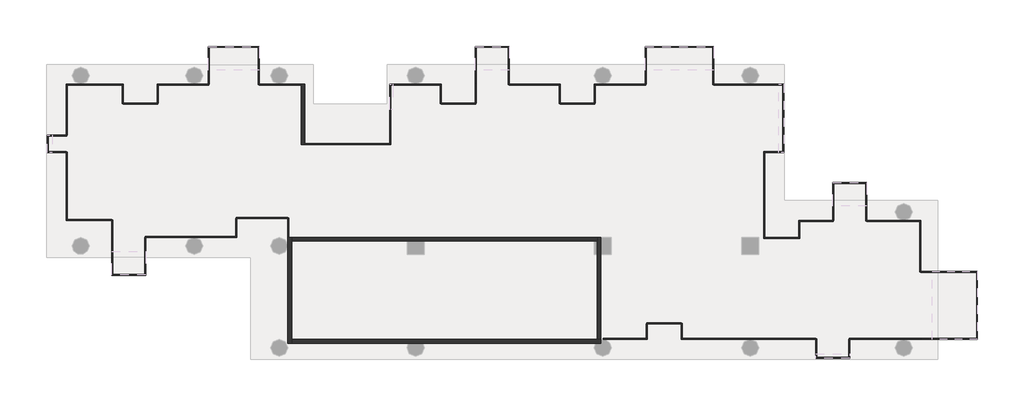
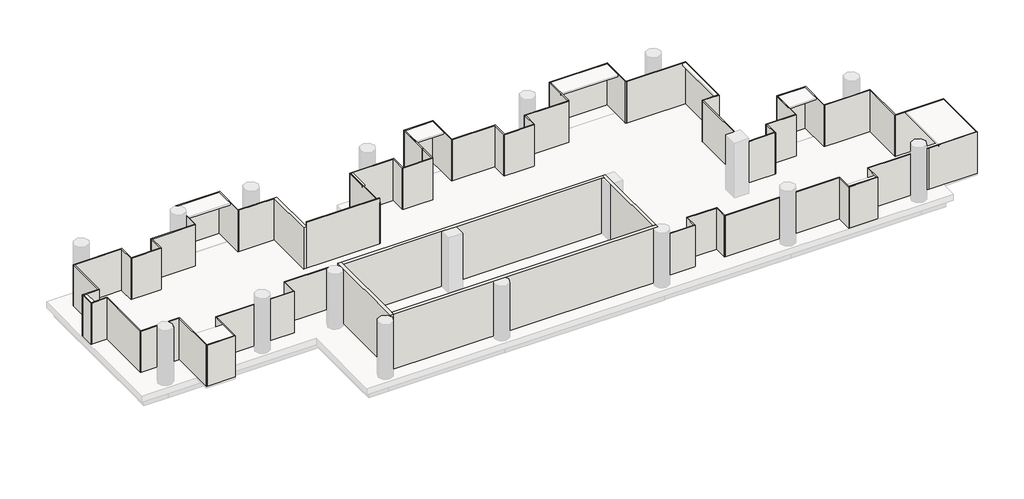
# One storey, part 1 of 2: 68 walls.
"""IFC4 building model written with IfcOpenShell, lengths in millimetres."""

from ifc_helpers import new_model, si_unit, frame, origin, place, context, project, spatial, polyline, outline, extrude, faceted_brep, element, save

model = new_model("IFC4")

# Units and contexts
model_context = context("Model", 3, world=origin())
ifc_project = project(units=[si_unit("LENGTHUNIT", "METRE", prefix="MILLI")], contexts=[model_context])

# Site, building, storey
site = spatial("IfcSite", under=ifc_project)
building = spatial("IfcBuilding", under=site)
storey = spatial("IfcBuildingStorey", under=building, Name="TW-L 10", Elevation=35199.9999686)

# Walls
placement = place(None, origin())
element("IfcWall", 1, ObjectType="AJN-ARC-CONCRETE WALL-20cm", at=placement, inside=storey, context=model_context, shape_type="Brep", body=[
    faceted_brep([(113050.0, 30750.0, 38799.9999686), (113050.0, 30750.0, 35199.9999686), (113050.0, 25150.0, 35199.9999686), (113050.0, 25150.0, 38799.9999686), (113250.0, 30750.0, 35199.9999686), (113250.0, 30750.0, 38799.9999686), (113250.0, 30550.0, 38799.9999686), (113250.0, 25350.0, 38799.9999686), (113250.0, 25150.0, 38799.9999686), (113250.0, 25150.0, 35199.9999686), (113250.0, 25350.0, 35199.9999686), (113250.0, 30550.0, 35199.9999686), (113097.1743518, 30750.0, 35199.9999686)], [[[0, 1, 2, 3]], [[4, 5, 6, 7, 8, 9, 10, 11]], [[2, 1, 12, 4, 11, 10, 9]], [[0, 3, 8, 7, 6, 5]], [[3, 2, 9, 8]], [[0, 5, 4, 12, 1]]]),
])
element("IfcWall", 2, ObjectType="AJN-ARC-CONCRETE WALL-20cm", at=placement, inside=storey, context=model_context, shape_type="Brep", body=[
    faceted_brep([(113250.0, 25150.0, 35199.9999686), (119425.8342613, 25150.0, 35199.9999686), (120174.1657387, 25150.0, 35199.9999686), (129325.8342613, 25150.0, 35199.9999686), (129600.0, 25150.0, 35199.9999686), (129600.0, 25150.0, 38799.9999686), (129325.8342613, 25150.0, 38799.9999686), (120174.1657387, 25150.0, 38799.9999686), (119425.8342613, 25150.0, 38799.9999686), (113250.0, 25150.0, 38799.9999686), (113250.0, 25350.0, 35199.9999686), (113250.0, 25350.0, 38799.9999686), (129400.0, 25350.0, 38799.9999686), (129600.0, 25350.0, 38799.9999686), (129600.0, 25350.0, 35199.9999686), (129400.0, 25350.0, 35199.9999686), (129600.0, 25338.7482194, 35199.9999686), (129600.0, 25338.7482194, 38799.9999686)], [[[0, 1, 2, 3, 4, 5, 6, 7, 8, 9]], [[10, 11, 12, 13, 14, 15]], [[4, 3, 2, 1, 0, 10, 15, 14, 16]], [[9, 8, 7, 6, 5, 17, 13, 12, 11]], [[5, 4, 16, 14, 13, 17]], [[0, 9, 11, 10]]]),
])
element("IfcWall", 3, ObjectType="AJN-ARC-CONCRETE WALL-20cm", at=placement, inside=storey, context=model_context, shape_type="Brep", body=[
    faceted_brep([(129600.0, 25350.0, 35199.9999686), (129600.0, 29850.0, 35199.9999686), (129600.0, 30750.0, 35199.9999686), (129600.0, 30750.0, 38799.9999686), (129600.0, 29850.0, 38799.9999686), (129600.0, 25350.0, 38799.9999686), (129400.0, 25350.0, 35199.9999686), (129400.0, 25350.0, 38799.9999686), (129400.0, 29850.0, 38799.9999686), (129400.0, 30550.0, 38799.9999686), (129400.0, 30750.0, 38799.9999686), (129400.0, 30750.0, 35199.9999686), (129400.0, 30550.0, 35199.9999686), (129400.0, 29850.0, 35199.9999686)], [[[0, 1, 2, 3, 4, 5]], [[6, 7, 8, 9, 10, 11, 12, 13]], [[2, 1, 0, 6, 13, 12, 11]], [[5, 4, 3, 10, 9, 8, 7]], [[3, 2, 11, 10]], [[0, 5, 7, 6]]]),
])
element("IfcWall", 4, ObjectType="AJN-ARC-CONCRETE WALL-20cm", at=placement, inside=storey, context=model_context, shape_type="Brep", body=[
    faceted_brep([(129400.0, 30750.0, 35199.9999686), (113250.0, 30750.0, 35199.9999686), (113250.0, 30750.0, 38799.9999686), (129400.0, 30750.0, 38799.9999686), (129400.0, 30550.0, 35199.9999686), (129400.0, 30550.0, 38799.9999686), (129250.0, 30550.0, 38799.9999686), (120250.0, 30550.0, 38799.9999686), (119350.0, 30550.0, 38799.9999686), (113250.0, 30550.0, 38799.9999686), (113250.0, 30550.0, 35199.9999686), (119350.0, 30550.0, 35199.9999686), (120250.0, 30550.0, 35199.9999686), (129250.0, 30550.0, 35199.9999686)], [[[0, 1, 2, 3]], [[4, 5, 6, 7, 8, 9, 10, 11, 12, 13]], [[1, 0, 4, 13, 12, 11, 10]], [[3, 2, 9, 8, 7, 6, 5]], [[0, 3, 5, 4]], [[1, 10, 9, 2]]]),
])
element("IfcWall", 5, ObjectType="AJN-ARC-CONCRETE WALL-20cm", at=placement, inside=storey, context=model_context, shape_type="Brep", body=[
    faceted_brep([(113950.0, 35650.0, 35199.9999686), (113950.0, 38850.001152, 35199.9999686), (113950.0, 38850.001152, 37899.9999686), (113950.0, 35650.0, 37899.9999686), (113750.0, 35650.0, 35199.9999686), (113750.0, 35650.0, 37899.9999686), (113750.0, 38800.001056, 37899.9999686), (113750.0, 38850.001056, 37899.9999686), (113750.0, 38850.001056, 35199.9999686), (113750.0, 38800.001056, 35199.9999686)], [[[0, 1, 2, 3]], [[4, 5, 6, 7, 8, 9]], [[1, 0, 4, 9, 8]], [[3, 2, 7, 6, 5]], [[0, 3, 5, 4]], [[2, 1, 8, 7]]]),
])
element("IfcWall", 6, ObjectType="AJN-ARC-GLASS-50mm", at=placement, inside=storey, context=model_context, shape_type="SweptSolid", body=[
    extrude(outline(polyline([(111550.0, 38850.0), (113750.0, 38850.001056), (113750.0, 38800.001056), (111550.000024, 38800.0), (111550.0, 38850.0)])), frame((0.0, 0.0, 35199.9999686), z_axis=(0.0, 0.0, 1.0), x_axis=(1.0, 0.0, 0.0)), (0.0, 0.0, 1.0), 2700.0),
])
element("IfcWall", 7, ObjectType="AJN-ARC-GLASS-50mm", at=placement, inside=storey, context=model_context, shape_type="Brep", body=[
    faceted_brep([(111550.0, 38824.999988, 35199.9999686), (111550.0, 40850.0, 35199.9999686), (111550.0, 40850.0, 37899.9999686), (111550.0, 38824.999988, 37899.9999686), (111500.0, 38824.999988, 35199.9999686), (111500.0, 38824.999988, 37899.9999686), (111500.0, 40800.0, 37899.9999686), (111500.0, 40850.0, 37899.9999686), (111500.0, 40850.0, 35199.9999686), (111500.0, 40800.0, 35199.9999686)], [[[0, 1, 2, 3]], [[4, 5, 6, 7, 8, 9]], [[1, 0, 4, 9, 8]], [[3, 2, 7, 6, 5]], [[0, 3, 5, 4]], [[2, 1, 8, 7]]]),
])
element("IfcWall", 8, ObjectType="AJN-ARC-GLASS-50mm", at=placement, inside=storey, context=model_context, shape_type="Brep", body=[
    faceted_brep([(111500.0, 40850.0, 35199.9999686), (108850.0, 40850.0, 35199.9999686), (108850.0, 40850.0, 37899.9999686), (111500.0, 40850.0, 37899.9999686), (111500.0, 40800.0, 35199.9999686), (111500.0, 40800.0, 37899.9999686), (108900.0, 40800.0, 37899.9999686), (108850.0, 40800.0, 37899.9999686), (108850.0, 40800.0, 35199.9999686), (108900.0, 40800.0, 35199.9999686)], [[[0, 1, 2, 3]], [[4, 5, 6, 7, 8, 9]], [[1, 0, 4, 9, 8]], [[3, 2, 7, 6, 5]], [[2, 1, 8, 7]], [[0, 3, 5, 4]]]),
])
element("IfcWall", 9, ObjectType="AJN-ARC-GLASS-50mm", at=placement, inside=storey, context=model_context, shape_type="SweptSolid", body=[
    extrude(outline(polyline([(108850.0, 38850.0), (108850.0, 40800.0), (108900.0, 40800.0), (108900.0, 38850.0), (108850.0, 38850.0)])), frame((0.0, 0.0, 35199.9999686), z_axis=(0.0, 0.0, 1.0), x_axis=(1.0, 0.0, 0.0)), (0.0, 0.0, 1.0), 2700.0),
])
element("IfcWall", 10, ObjectType="AJN-ARC-GLASS-50mm", at=placement, inside=storey, context=model_context, shape_type="Brep", body=[
    faceted_brep([(108875.0000019, 38849.9999981, 35199.9999686), (106150.0, 38850.0002073, 35199.9999686), (106150.0, 38850.0002073, 37899.9999686), (108875.0000019, 38849.9999981, 37899.9999686), (108874.9999981, 38799.9999981, 35199.9999686), (108874.9999981, 38799.9999981, 37899.9999686), (106200.0, 38800.0002034, 37899.9999686), (106150.0, 38800.0002073, 37899.9999686), (106150.0, 38800.0002073, 35199.9999686), (106200.0, 38800.0002034, 35199.9999686)], [[[0, 1, 2, 3]], [[4, 5, 6, 7, 8, 9]], [[1, 0, 4, 9, 8]], [[3, 2, 7, 6, 5]], [[0, 3, 5, 4]], [[2, 1, 8, 7]]]),
])
element("IfcWall", 11, ObjectType="AJN-ARC-GLASS-50mm", at=placement, inside=storey, context=model_context, shape_type="SweptSolid", body=[
    extrude(outline(polyline([(106150.0, 37850.0), (106150.0, 38800.0002073), (106200.0, 38800.0002034), (106200.0, 37850.0), (106150.0, 37850.0)])), frame((0.0, 0.0, 35199.9999686), z_axis=(0.0, 0.0, 1.0), x_axis=(1.0, 0.0, 0.0)), (0.0, 0.0, 1.0), 2700.0),
])
element("IfcWall", 12, ObjectType="AJN-ARC-GLASS-50mm", at=placement, inside=storey, context=model_context, shape_type="SweptSolid", body=[
    extrude(outline(polyline([(104350.0, 37850.0), (106175.0, 37850.0), (106175.0, 37800.0), (104350.0, 37800.0), (104350.0, 37850.0)])), frame((0.0, 0.0, 35199.9999686), z_axis=(0.0, 0.0, 1.0), x_axis=(1.0, 0.0, 0.0)), (0.0, 0.0, 1.0), 2700.0),
])
element("IfcWall", 13, ObjectType="AJN-ARC-GLASS-50mm", at=placement, inside=storey, context=model_context, shape_type="Brep", body=[
    faceted_brep([(104350.0, 37825.0, 35199.9999686), (104350.0, 38850.0003455, 35199.9999686), (104350.0, 38850.0003455, 37899.9999686), (104350.0, 37825.0, 37899.9999686), (104300.0, 37825.0, 35199.9999686), (104300.0, 37825.0, 37899.9999686), (104300.0, 38800.0003589, 37899.9999686), (104300.0, 38850.0003589, 37899.9999686), (104300.0, 38850.0003589, 35199.9999686), (104300.0, 38800.0003589, 35199.9999686)], [[[0, 1, 2, 3]], [[4, 5, 6, 7, 8, 9]], [[1, 0, 4, 9, 8]], [[3, 2, 7, 6, 5]], [[0, 3, 5, 4]], [[2, 1, 8, 7]]]),
])
element("IfcWall", 14, ObjectType="AJN-ARC-GLASS-50mm", at=placement, inside=storey, context=model_context, shape_type="Brep", body=[
    faceted_brep([(104300.0, 38850.0003589, 35199.9999686), (101347.1743518, 38850.001152, 35199.9999686), (101347.1743518, 38850.001152, 37899.9999686), (104300.0, 38850.0003589, 37899.9999686), (104300.0, 38800.0003589, 35199.9999686), (104300.0, 38800.0003589, 37899.9999686), (101397.1743518, 38800.0011385, 37899.9999686), (101347.1743518, 38800.001152, 37899.9999686), (101347.1743518, 38800.001152, 35199.9999686), (101397.1743518, 38800.0011385, 35199.9999686)], [[[0, 1, 2, 3]], [[4, 5, 6, 7, 8, 9]], [[1, 0, 4, 9, 8]], [[3, 2, 7, 6, 5]], [[2, 1, 8, 7]], [[0, 3, 5, 4]]]),
])
element("IfcWall", 15, ObjectType="AJN-ARC-GLASS-50mm", at=placement, inside=storey, context=model_context, shape_type="SweptSolid", body=[
    extrude(outline(polyline([(101347.1743518, 36149.4054443), (101347.1743518, 38800.001152), (101397.1743518, 38800.0011385), (101397.1743518, 36149.4054443), (101347.1743518, 36149.4054443)])), frame((0.0, 0.0, 35199.9999686), z_axis=(0.0, 0.0, 1.0), x_axis=(1.0, 0.0, 0.0)), (0.0, 0.0, 1.0), 2700.0),
])
element("IfcWall", 16, ObjectType="AJN-ARC-GLASS-50mm", at=placement, inside=storey, context=model_context, shape_type="Brep", body=[
    faceted_brep([(101372.1743518, 36149.4054443, 35199.9999686), (100347.1743518, 36149.4054443, 35199.9999686), (100347.1743518, 36149.4054443, 37899.9999686), (101372.1743518, 36149.4054443, 37899.9999686), (101372.1743518, 36099.4054443, 35199.9999686), (101372.1743518, 36099.4054443, 37899.9999686), (100397.1743518, 36099.4054443, 37899.9999686), (100347.1743518, 36099.4054443, 37899.9999686), (100347.1743518, 36099.4054443, 35199.9999686), (100397.1743518, 36099.4054443, 35199.9999686)], [[[0, 1, 2, 3]], [[4, 5, 6, 7, 8, 9]], [[1, 0, 4, 9, 8]], [[3, 2, 7, 6, 5]], [[0, 3, 5, 4]], [[2, 1, 8, 7]]]),
])
element("IfcWall", 17, ObjectType="AJN-ARC-GLASS-50mm", at=placement, inside=storey, context=model_context, shape_type="Brep", body=[
    faceted_brep([(100347.1743518, 36099.4054443, 35199.9999686), (100347.1743518, 35249.4054443, 35199.9999686), (100347.1743518, 35249.4054443, 37899.9999686), (100347.1743518, 36099.4054443, 37899.9999686), (100397.1743518, 36099.4054443, 35199.9999686), (100397.1743518, 36099.4054443, 37899.9999686), (100397.1743518, 35299.4054443, 37899.9999686), (100397.1743518, 35249.4054443, 37899.9999686), (100397.1743518, 35249.4054443, 35199.9999686), (100397.1743518, 35299.4054443, 35199.9999686)], [[[0, 1, 2, 3]], [[4, 5, 6, 7, 8, 9]], [[1, 0, 4, 9, 8]], [[3, 2, 7, 6, 5]], [[2, 1, 8, 7]], [[0, 3, 5, 4]]]),
])
element("IfcWall", 18, ObjectType="AJN-ARC-GLASS-50mm", at=placement, inside=storey, context=model_context, shape_type="SweptSolid", body=[
    extrude(outline(polyline([(101347.1743518, 35249.4054443), (100397.1743518, 35249.4054443), (100397.1743518, 35299.4054443), (101347.1743518, 35299.4054443), (101347.1743518, 35249.4054443)])), frame((0.0, 0.0, 35199.9999686), z_axis=(0.0, 0.0, 1.0), x_axis=(1.0, 0.0, 0.0)), (0.0, 0.0, 1.0), 2700.0),
])
element("IfcWall", 19, ObjectType="AJN-ARC-GLASS-50mm", at=placement, inside=storey, context=model_context, shape_type="Brep", body=[
    faceted_brep([(101347.1743518, 35274.4054443, 35199.9999686), (101347.1743518, 31650.9122458, 35199.9999686), (101347.1743518, 31650.9122458, 37899.9999686), (101347.1743518, 35274.4054443, 37899.9999686), (101397.1743518, 35274.4054443, 35199.9999686), (101397.1743518, 35274.4054443, 37899.9999686), (101397.1743518, 31700.9122458, 37899.9999686), (101397.1743518, 31650.9122458, 37899.9999686), (101397.1743518, 31650.9122458, 35199.9999686), (101397.1743518, 31700.9122458, 35199.9999686)], [[[0, 1, 2, 3]], [[4, 5, 6, 7, 8, 9]], [[1, 0, 4, 9, 8]], [[3, 2, 7, 6, 5]], [[0, 3, 5, 4]], [[2, 1, 8, 7]]]),
])
element("IfcWall", 20, ObjectType="AJN-ARC-GLASS-50mm", at=placement, inside=storey, context=model_context, shape_type="SweptSolid", body=[
    extrude(outline(polyline([(103747.1743518, 31650.9122458), (101397.1743518, 31650.9122458), (101397.1743518, 31700.9122458), (103747.1743518, 31700.9122458), (103747.1743518, 31650.9122458)])), frame((0.0, 0.0, 35199.9999686), z_axis=(0.0, 0.0, 1.0), x_axis=(1.0, 0.0, 0.0)), (0.0, 0.0, 1.0), 2700.0),
])
element("IfcWall", 21, ObjectType="AJN-ARC-GLASS-50mm", at=placement, inside=storey, context=model_context, shape_type="Brep", body=[
    faceted_brep([(103747.1743518, 31675.9122458, 35199.9999686), (103747.1743518, 28750.0, 35199.9999686), (103747.1743518, 28750.0, 37899.9999686), (103747.1743518, 31675.9122458, 37899.9999686), (103797.1743518, 31675.9122458, 35199.9999686), (103797.1743518, 31675.9122458, 37899.9999686), (103797.1743518, 28800.0, 37899.9999686), (103797.1743518, 28750.0, 37899.9999686), (103797.1743518, 28750.0, 35199.9999686), (103797.1743518, 28800.0, 35199.9999686)], [[[0, 1, 2, 3]], [[4, 5, 6, 7, 8, 9]], [[1, 0, 4, 9, 8]], [[3, 2, 7, 6, 5]], [[0, 3, 5, 4]], [[2, 1, 8, 7]]]),
])
element("IfcWall", 22, ObjectType="AJN-ARC-GLASS-50mm", at=placement, inside=storey, context=model_context, shape_type="Brep", body=[
    faceted_brep([(103797.1743518, 28750.0, 35199.9999686), (105547.1743518, 28750.0, 35199.9999686), (105547.1743518, 28750.0, 37899.9999686), (103797.1743518, 28750.0, 37899.9999686), (103797.1743518, 28800.0, 35199.9999686), (103797.1743518, 28800.0, 37899.9999686), (105497.1743518, 28800.0, 37899.9999686), (105547.1743518, 28800.0, 37899.9999686), (105547.1743518, 28800.0, 35199.9999686), (105497.1743518, 28800.0, 35199.9999686)], [[[0, 1, 2, 3]], [[4, 5, 6, 7, 8, 9]], [[1, 0, 4, 9, 8]], [[3, 2, 7, 6, 5]], [[2, 1, 8, 7]], [[0, 3, 5, 4]]]),
])
element("IfcWall", 23, ObjectType="AJN-ARC-GLASS-50mm", at=placement, inside=storey, context=model_context, shape_type="SweptSolid", body=[
    extrude(outline(polyline([(105547.1743518, 30750.0), (105547.1743518, 28800.0), (105497.1743518, 28800.0), (105497.1743518, 30750.0), (105547.1743518, 30750.0)])), frame((0.0, 0.0, 35199.9999686), z_axis=(0.0, 0.0, 1.0), x_axis=(1.0, 0.0, 0.0)), (0.0, 0.0, 1.0), 2700.0),
])
element("IfcWall", 24, ObjectType="AJN-ARC-GLASS-50mm", at=placement, inside=storey, context=model_context, shape_type="Brep", body=[
    faceted_brep([(105522.1743518, 30750.0, 35199.9999686), (110347.1743518, 30750.0, 35199.9999686), (110347.1743518, 30750.0, 37899.9999686), (105522.1743518, 30750.0, 37899.9999686), (105522.1743518, 30800.0, 35199.9999686), (105522.1743518, 30800.0, 37899.9999686), (110297.1743518, 30800.0, 37899.9999686), (110347.1743518, 30800.0, 37899.9999686), (110347.1743518, 30800.0, 35199.9999686), (110297.1743518, 30800.0, 35199.9999686)], [[[0, 1, 2, 3]], [[4, 5, 6, 7, 8, 9]], [[1, 0, 4, 9, 8]], [[3, 2, 7, 6, 5]], [[0, 3, 5, 4]], [[2, 1, 8, 7]]]),
])
element("IfcWall", 25, ObjectType="AJN-ARC-GLASS-50mm", at=placement, inside=storey, context=model_context, shape_type="SweptSolid", body=[
    extrude(outline(polyline([(110347.1743518, 31750.0), (110347.1743518, 30800.0), (110297.1743518, 30800.0), (110297.1743518, 31750.0), (110347.1743518, 31750.0)])), frame((0.0, 0.0, 35199.9999686), z_axis=(0.0, 0.0, 1.0), x_axis=(1.0, 0.0, 0.0)), (0.0, 0.0, 1.0), 2700.0),
])
element("IfcWall", 26, ObjectType="AJN-ARC-GLASS-50mm", at=placement, inside=storey, context=model_context, shape_type="SweptSolid", body=[
    extrude(outline(polyline([(113047.1743518, 31750.0), (110322.1743518, 31750.0), (110322.1743518, 31800.0), (113047.1743518, 31800.0), (113047.1743518, 31750.0)])), frame((0.0, 0.0, 35199.9999686), z_axis=(0.0, 0.0, 1.0), x_axis=(1.0, 0.0, 0.0)), (0.0, 0.0, 1.0), 2700.0),
])
element("IfcWall", 27, ObjectType="AJN-ARC-GLASS-50mm", at=placement, inside=storey, context=model_context, shape_type="Brep", body=[
    faceted_brep([(113047.1743518, 31775.0, 35199.9999686), (113047.1743518, 30750.0, 35199.9999686), (113047.1743518, 30750.0, 37899.9999686), (113047.1743518, 31775.0, 37899.9999686), (113097.1743518, 31775.0, 35199.9999686), (113097.1743518, 31775.0, 37899.9999686), (113097.1743518, 30750.0, 37899.9999686), (113097.1743518, 30750.0, 35199.9999686), (113050.0, 30750.0, 35199.9999686)], [[[0, 1, 2, 3]], [[4, 5, 6, 7]], [[1, 0, 4, 7, 8]], [[3, 2, 6, 5]], [[0, 3, 5, 4]], [[2, 1, 8, 7, 6]]]),
])
element("IfcWall", 28, ObjectType="AJN-ARC-GLASS-50mm", at=placement, inside=storey, context=model_context, shape_type="Brep", body=[
    faceted_brep([(138250.0, 30700.0, 35199.9999686), (138250.0, 30750.0, 35199.9999686), (138250.0, 35250.0, 35199.9999686), (138250.0, 35250.0, 37899.9999686), (138250.0, 30750.0, 37899.9999686), (138250.0, 30700.0, 37899.9999686), (138200.0, 30700.0, 35199.9999686), (138200.0, 30700.0, 37899.9999686), (138200.0, 35250.0, 37899.9999686), (138200.0, 35250.0, 35199.9999686)], [[[0, 1, 2, 3, 4, 5]], [[6, 7, 8, 9]], [[2, 1, 0, 6, 9]], [[5, 4, 3, 8, 7]], [[0, 5, 7, 6]], [[3, 2, 9, 8]]]),
])
element("IfcWall", 29, ObjectType="AJN-ARC-GLASS-50mm", at=placement, inside=storey, context=model_context, shape_type="Brep", body=[
    faceted_brep([(138200.0, 35250.0, 35199.9999686), (138250.0, 35250.0, 35199.9999686), (139250.0, 35250.0, 35199.9999686), (139250.0, 35250.0, 37899.9999686), (138250.0, 35250.0, 37899.9999686), (138200.0, 35250.0, 37899.9999686), (138200.0, 35300.0, 35199.9999686), (138200.0, 35300.0, 37899.9999686), (139200.0, 35300.0, 37899.9999686), (139250.0, 35300.0, 37899.9999686), (139250.0, 35300.0, 35199.9999686), (139200.0, 35300.0, 35199.9999686)], [[[0, 1, 2, 3, 4, 5]], [[6, 7, 8, 9, 10, 11]], [[2, 1, 0, 6, 11, 10]], [[5, 4, 3, 9, 8, 7]], [[3, 2, 10, 9]], [[0, 5, 7, 6]]]),
])
element("IfcWall", 30, ObjectType="AJN-ARC-GLASS-50mm", at=placement, inside=storey, context=model_context, shape_type="Brep", body=[
    faceted_brep([(139250.0, 35300.0, 35199.9999686), (139250.0, 38850.0, 35199.9999686), (139250.0, 38850.0, 37899.9999686), (139250.0, 35300.0, 37899.9999686), (139200.0, 35300.0, 35199.9999686), (139200.0, 35300.0, 37899.9999686), (139200.0, 38800.0, 37899.9999686), (139200.0, 38850.0, 37899.9999686), (139200.0, 38850.0, 35199.9999686), (139200.0, 38800.0, 35199.9999686)], [[[0, 1, 2, 3]], [[4, 5, 6, 7, 8, 9]], [[1, 0, 4, 9, 8]], [[3, 2, 7, 6, 5]], [[2, 1, 8, 7]], [[0, 3, 5, 4]]]),
])
element("IfcWall", 31, ObjectType="AJN-ARC-GLASS-50mm", at=placement, inside=storey, context=model_context, shape_type="SweptSolid", body=[
    extrude(outline(polyline([(135550.0, 38850.0), (139200.0, 38850.0), (139200.0, 38800.0), (135550.0, 38800.0), (135550.0, 38850.0)])), frame((0.0, 0.0, 35199.9999686), z_axis=(0.0, 0.0, 1.0), x_axis=(1.0, 0.0, 0.0)), (0.0, 0.0, 1.0), 2700.0),
])
element("IfcWall", 32, ObjectType="AJN-ARC-GLASS-50mm", at=placement, inside=storey, context=model_context, shape_type="Brep", body=[
    faceted_brep([(135550.0, 38825.0, 35199.9999686), (135550.0, 40850.0, 35199.9999686), (135550.0, 40850.0, 37899.9999686), (135550.0, 38825.0, 37899.9999686), (135500.0, 38825.0, 35199.9999686), (135500.0, 38825.0, 37899.9999686), (135500.0, 40800.0, 37899.9999686), (135500.0, 40850.0, 37899.9999686), (135500.0, 40850.0, 35199.9999686), (135500.0, 40800.0, 35199.9999686)], [[[0, 1, 2, 3]], [[4, 5, 6, 7, 8, 9]], [[1, 0, 4, 9, 8]], [[3, 2, 7, 6, 5]], [[0, 3, 5, 4]], [[2, 1, 8, 7]]]),
])
element("IfcWall", 33, ObjectType="AJN-ARC-GLASS-50mm", at=placement, inside=storey, context=model_context, shape_type="Brep", body=[
    faceted_brep([(135500.0, 40850.0, 35199.9999686), (131950.0, 40850.0, 35199.9999686), (131950.0, 40850.0, 37899.9999686), (135500.0, 40850.0, 37899.9999686), (135500.0, 40800.0, 35199.9999686), (135500.0, 40800.0, 37899.9999686), (132000.0, 40800.0, 37899.9999686), (131950.0, 40800.0, 37899.9999686), (131950.0, 40800.0, 35199.9999686), (132000.0, 40800.0, 35199.9999686)], [[[0, 1, 2, 3]], [[4, 5, 6, 7, 8, 9]], [[1, 0, 4, 9, 8]], [[3, 2, 7, 6, 5]], [[2, 1, 8, 7]], [[0, 3, 5, 4]]]),
])
element("IfcWall", 34, ObjectType="AJN-ARC-GLASS-50mm", at=placement, inside=storey, context=model_context, shape_type="SweptSolid", body=[
    extrude(outline(polyline([(131950.0, 38850.0), (131950.0, 40800.0), (132000.0, 40800.0), (132000.0, 38850.0), (131950.0, 38850.0)])), frame((0.0, 0.0, 35199.9999686), z_axis=(0.0, 0.0, 1.0), x_axis=(1.0, 0.0, 0.0)), (0.0, 0.0, 1.0), 2700.0),
])
element("IfcWall", 35, ObjectType="AJN-ARC-GLASS-50mm", at=placement, inside=storey, context=model_context, shape_type="Brep", body=[
    faceted_brep([(131975.0, 38850.0, 35199.9999686), (129250.0, 38850.0, 35199.9999686), (129250.0, 38850.0, 37899.9999686), (131975.0, 38850.0, 37899.9999686), (131975.0, 38800.0, 35199.9999686), (131975.0, 38800.0, 37899.9999686), (129300.0, 38800.0, 37899.9999686), (129250.0, 38800.0, 37899.9999686), (129250.0, 38800.0, 35199.9999686), (129300.0, 38800.0, 35199.9999686)], [[[0, 1, 2, 3]], [[4, 5, 6, 7, 8, 9]], [[1, 0, 4, 9, 8]], [[3, 2, 7, 6, 5]], [[0, 3, 5, 4]], [[2, 1, 8, 7]]]),
])
element("IfcWall", 36, ObjectType="AJN-ARC-GLASS-50mm", at=placement, inside=storey, context=model_context, shape_type="SweptSolid", body=[
    extrude(outline(polyline([(129250.0, 37850.0), (129250.0, 38800.0), (129300.0, 38800.0), (129300.0, 37850.0), (129250.0, 37850.0)])), frame((0.0, 0.0, 35199.9999686), z_axis=(0.0, 0.0, 1.0), x_axis=(1.0, 0.0, 0.0)), (0.0, 0.0, 1.0), 2700.0),
])
element("IfcWall", 37, ObjectType="AJN-ARC-GLASS-50mm", at=placement, inside=storey, context=model_context, shape_type="SweptSolid", body=[
    extrude(outline(polyline([(127450.0, 37850.0), (129275.0, 37850.0), (129275.0, 37800.0), (127450.0, 37800.0), (127450.0, 37850.0)])), frame((0.0, 0.0, 35199.9999686), z_axis=(0.0, 0.0, 1.0), x_axis=(1.0, 0.0, 0.0)), (0.0, 0.0, 1.0), 2700.0),
])
element("IfcWall", 38, ObjectType="AJN-ARC-GLASS-50mm", at=placement, inside=storey, context=model_context, shape_type="Brep", body=[
    faceted_brep([(127450.0, 37825.0, 35199.9999686), (127450.0, 38850.0, 35199.9999686), (127450.0, 38850.0, 37899.9999686), (127450.0, 37825.0, 37899.9999686), (127400.0, 37825.0, 35199.9999686), (127400.0, 37825.0, 37899.9999686), (127400.0, 38800.0, 37899.9999686), (127400.0, 38850.0, 37899.9999686), (127400.0, 38850.0, 35199.9999686), (127400.0, 38800.0, 35199.9999686)], [[[0, 1, 2, 3]], [[4, 5, 6, 7, 8, 9]], [[1, 0, 4, 9, 8]], [[3, 2, 7, 6, 5]], [[0, 3, 5, 4]], [[2, 1, 8, 7]]]),
])
element("IfcWall", 39, ObjectType="AJN-ARC-GLASS-50mm", at=placement, inside=storey, context=model_context, shape_type="SweptSolid", body=[
    extrude(outline(polyline([(124761.0540705, 38850.0), (127400.0, 38850.0), (127400.0, 38800.0), (124761.0540705, 38800.0), (124761.0540705, 38850.0)])), frame((0.0, 0.0, 35199.9999686), z_axis=(0.0, 0.0, 1.0), x_axis=(1.0, 0.0, 0.0)), (0.0, 0.0, 1.0), 2700.0),
])
element("IfcWall", 40, ObjectType="AJN-ARC-GLASS-50mm", at=placement, inside=storey, context=model_context, shape_type="Brep", body=[
    faceted_brep([(124761.0540705, 38825.0, 35199.9999686), (124761.0540705, 40850.0, 35199.9999686), (124761.0540705, 40850.0, 37899.9999686), (124761.0540705, 38825.0, 37899.9999686), (124711.0540705, 38825.0, 35199.9999686), (124711.0540705, 38825.0, 37899.9999686), (124711.0540705, 40800.0, 37899.9999686), (124711.0540705, 40850.0, 37899.9999686), (124711.0540705, 40850.0, 35199.9999686), (124711.0540705, 40800.0, 35199.9999686)], [[[0, 1, 2, 3]], [[4, 5, 6, 7, 8, 9]], [[1, 0, 4, 9, 8]], [[3, 2, 7, 6, 5]], [[0, 3, 5, 4]], [[2, 1, 8, 7]]]),
])
element("IfcWall", 41, ObjectType="AJN-ARC-GLASS-50mm", at=placement, inside=storey, context=model_context, shape_type="Brep", body=[
    faceted_brep([(124711.0540705, 40850.0, 35199.9999686), (122961.0540705, 40850.0, 35199.9999686), (122961.0540705, 40850.0, 37899.9999686), (124711.0540705, 40850.0, 37899.9999686), (124711.0540705, 40800.0, 35199.9999686), (124711.0540705, 40800.0, 37899.9999686), (123011.0540705, 40800.0, 37899.9999686), (122961.0540705, 40800.0, 37899.9999686), (122961.0540705, 40800.0, 35199.9999686), (123011.0540705, 40800.0, 35199.9999686)], [[[0, 1, 2, 3]], [[4, 5, 6, 7, 8, 9]], [[1, 0, 4, 9, 8]], [[3, 2, 7, 6, 5]], [[2, 1, 8, 7]], [[0, 3, 5, 4]]]),
])
element("IfcWall", 42, ObjectType="AJN-ARC-GLASS-50mm", at=placement, inside=storey, context=model_context, shape_type="SweptSolid", body=[
    extrude(outline(polyline([(122961.0540705, 38875.0), (122961.0540705, 40800.0), (123011.0540705, 40800.0), (123011.0540705, 38875.0), (122961.0540705, 38875.0)])), frame((0.0, 0.0, 35199.9999686), z_axis=(0.0, 0.0, 1.0), x_axis=(1.0, 0.0, 0.0)), (0.0, 0.0, 1.0), 2700.0),
])
element("IfcWall", 43, ObjectType="AJN-ARC-GLASS-50mm", at=placement, inside=storey, context=model_context, shape_type="SweptSolid", body=[
    extrude(outline(polyline([(122963.0639015, 37850.0), (122963.0639015, 38875.0), (123013.0639015, 38875.0), (123013.0639015, 37850.0), (122963.0639015, 37850.0)])), frame((0.0, 0.0, 35199.9999686), z_axis=(0.0, 0.0, 1.0), x_axis=(1.0, 0.0, 0.0)), (0.0, 0.0, 1.0), 2700.0),
])
element("IfcWall", 44, ObjectType="AJN-ARC-GLASS-50mm", at=placement, inside=storey, context=model_context, shape_type="SweptSolid", body=[
    extrude(outline(polyline([(121163.0639015, 37850.0), (122988.0639015, 37850.0), (122988.0639015, 37800.0), (121163.0639015, 37800.0), (121163.0639015, 37850.0)])), frame((0.0, 0.0, 35199.9999686), z_axis=(0.0, 0.0, 1.0), x_axis=(1.0, 0.0, 0.0)), (0.0, 0.0, 1.0), 2700.0),
])
element("IfcWall", 45, ObjectType="AJN-ARC-GLASS-50mm", at=placement, inside=storey, context=model_context, shape_type="Brep", body=[
    faceted_brep([(121163.0639015, 37825.0, 35199.9999686), (121163.0639015, 38850.0, 35199.9999686), (121163.0639015, 38850.0, 37899.9999686), (121163.0639015, 37825.0, 37899.9999686), (121113.0639015, 37825.0, 35199.9999686), (121113.0639015, 37825.0, 37899.9999686), (121113.0639015, 38800.0, 37899.9999686), (121113.0639015, 38850.0, 37899.9999686), (121113.0639015, 38850.0, 35199.9999686), (121113.0639015, 38800.0, 35199.9999686)], [[[0, 1, 2, 3]], [[4, 5, 6, 7, 8, 9]], [[1, 0, 4, 9, 8]], [[3, 2, 7, 6, 5]], [[0, 3, 5, 4]], [[2, 1, 8, 7]]]),
])
element("IfcWall", 46, ObjectType="AJN-ARC-GLASS-50mm", at=placement, inside=storey, context=model_context, shape_type="Brep", body=[
    faceted_brep([(121113.0639015, 38850.0, 35199.9999686), (118450.0, 38850.0, 35199.9999686), (118450.0, 38850.0, 37899.9999686), (121113.0639015, 38850.0, 37899.9999686), (121113.0639015, 38800.0, 35199.9999686), (121113.0639015, 38800.0, 37899.9999686), (118500.0, 38800.0, 37899.9999686), (118450.0, 38800.0, 37899.9999686), (118450.0, 38800.0, 35199.9999686), (118500.0, 38800.0, 35199.9999686)], [[[0, 1, 2, 3]], [[4, 5, 6, 7, 8, 9]], [[1, 0, 4, 9, 8]], [[3, 2, 7, 6, 5]], [[0, 3, 5, 4]], [[2, 1, 8, 7]]]),
])
element("IfcWall", 47, ObjectType="AJN-ARC-GLASS-50mm", at=placement, inside=storey, context=model_context, shape_type="Brep", body=[
    faceted_brep([(129714.068817, 25350.0, 35199.9999686), (132036.3087916, 25350.0, 35199.9999686), (132036.3087916, 25350.0, 37899.9999686), (129714.068817, 25350.0, 37899.9999686), (129714.068817, 25400.0, 35199.9999686), (129714.068817, 25400.0, 37899.9999686), (131986.3087916, 25400.0, 37899.9999686), (132036.3087916, 25400.0, 37899.9999686), (132036.3087916, 25400.0, 35199.9999686), (131986.3087916, 25400.0, 35199.9999686)], [[[0, 1, 2, 3]], [[4, 5, 6, 7, 8, 9]], [[1, 0, 4, 9, 8]], [[3, 2, 7, 6, 5]], [[0, 3, 5, 4]], [[2, 1, 8, 7]]]),
])
element("IfcWall", 48, ObjectType="AJN-ARC-GLASS-50mm", at=placement, inside=storey, context=model_context, shape_type="SweptSolid", body=[
    extrude(outline(polyline([(132036.3087916, 26186.5520209), (132036.3087916, 25400.0), (131986.3087916, 25400.0), (131986.3087916, 26186.5520209), (132036.3087916, 26186.5520209)])), frame((0.0, 0.0, 35199.9999686), z_axis=(0.0, 0.0, 1.0), x_axis=(1.0, 0.0, 0.0)), (0.0, 0.0, 1.0), 2700.0),
])
element("IfcWall", 49, ObjectType="AJN-ARC-GLASS-50mm", at=placement, inside=storey, context=model_context, shape_type="SweptSolid", body=[
    extrude(outline(polyline([(133836.3115759, 26186.5520209), (132011.3087916, 26186.5520209), (132011.3087916, 26236.5520209), (133836.3115759, 26236.5520209), (133836.3115759, 26186.5520209)])), frame((0.0, 0.0, 35199.9999686), z_axis=(0.0, 0.0, 1.0), x_axis=(1.0, 0.0, 0.0)), (0.0, 0.0, 1.0), 2700.0),
])
element("IfcWall", 50, ObjectType="AJN-ARC-GLASS-50mm", at=placement, inside=storey, context=model_context, shape_type="Brep", body=[
    faceted_brep([(133836.3115759, 26211.5520209, 35199.9999686), (133836.3115759, 25350.0, 35199.9999686), (133836.3115759, 25350.0, 37899.9999686), (133836.3115759, 26211.5520209, 37899.9999686), (133886.3115759, 26211.5520209, 35199.9999686), (133886.3115759, 26211.5520209, 37899.9999686), (133886.3115759, 25400.0, 37899.9999686), (133886.3115759, 25350.0, 37899.9999686), (133886.3115759, 25350.0, 35199.9999686), (133886.3115759, 25400.0, 35199.9999686)], [[[0, 1, 2, 3]], [[4, 5, 6, 7, 8, 9]], [[1, 0, 4, 9, 8]], [[3, 2, 7, 6, 5]], [[0, 3, 5, 4]], [[2, 1, 8, 7]]]),
])
element("IfcWall", 51, ObjectType="AJN-ARC-GLASS-50mm", at=placement, inside=storey, context=model_context, shape_type="SweptSolid", body=[
    extrude(outline(polyline([(140950.0, 25350.0), (133886.3115759, 25350.0), (133886.3115759, 25400.0), (140950.0, 25400.0), (140950.0, 25350.0)])), frame((0.0, 0.0, 35199.9999686), z_axis=(0.0, 0.0, 1.0), x_axis=(1.0, 0.0, 0.0)), (0.0, 0.0, 1.0), 2700.0),
])
element("IfcWall", 52, ObjectType="AJN-ARC-GLASS-50mm", at=placement, inside=storey, context=model_context, shape_type="Brep", body=[
    faceted_brep([(140950.0, 25375.0, 35199.9999686), (140950.0, 24350.0, 35199.9999686), (140950.0, 24350.0, 37899.9999686), (140950.0, 25375.0, 37899.9999686), (141000.0, 25375.0, 35199.9999686), (141000.0, 25375.0, 37899.9999686), (141000.0, 24400.0, 37899.9999686), (141000.0, 24350.0, 37899.9999686), (141000.0, 24350.0, 35199.9999686), (141000.0, 24400.0, 35199.9999686)], [[[0, 1, 2, 3]], [[4, 5, 6, 7, 8, 9]], [[1, 0, 4, 9, 8]], [[3, 2, 7, 6, 5]], [[0, 3, 5, 4]], [[2, 1, 8, 7]]]),
])
element("IfcWall", 53, ObjectType="AJN-ARC-GLASS-50mm", at=placement, inside=storey, context=model_context, shape_type="Brep", body=[
    faceted_brep([(141000.0, 24350.0, 35199.9999686), (142750.0, 24350.0, 35199.9999686), (142750.0, 24350.0, 37899.9999686), (141000.0, 24350.0, 37899.9999686), (141000.0, 24400.0, 35199.9999686), (141000.0, 24400.0, 37899.9999686), (142700.0, 24400.0, 37899.9999686), (142750.0, 24400.0, 37899.9999686), (142750.0, 24400.0, 35199.9999686), (142700.0, 24400.0, 35199.9999686)], [[[0, 1, 2, 3]], [[4, 5, 6, 7, 8, 9]], [[1, 0, 4, 9, 8]], [[3, 2, 7, 6, 5]], [[2, 1, 8, 7]], [[0, 3, 5, 4]]]),
])
element("IfcWall", 54, ObjectType="AJN-ARC-GLASS-50mm", at=placement, inside=storey, context=model_context, shape_type="SweptSolid", body=[
    extrude(outline(polyline([(142750.0, 25350.0), (142750.0, 24400.0), (142700.0, 24400.0), (142700.0, 25350.0), (142750.0, 25350.0)])), frame((0.0, 0.0, 35199.9999686), z_axis=(0.0, 0.0, 1.0), x_axis=(1.0, 0.0, 0.0)), (0.0, 0.0, 1.0), 2700.0),
])
element("IfcWall", 55, ObjectType="AJN-ARC-GLASS-50mm", at=placement, inside=storey, context=model_context, shape_type="SweptSolid", body=[
    extrude(outline(polyline([(146497.681474, 25350.0), (142725.0, 25350.0), (142725.0, 25400.0), (146497.681474, 25400.0), (146497.681474, 25350.0)])), frame((0.0, 0.0, 35199.9999686), z_axis=(0.0, 0.0, 1.0), x_axis=(1.0, 0.0, 0.0)), (0.0, 0.0, 1.0), 2700.0),
])
element("IfcWall", 56, ObjectType="AJN-ARC-GLASS-50mm", at=placement, inside=storey, context=model_context, shape_type="Brep", body=[
    faceted_brep([(146497.681474, 25350.0, 35199.9999686), (149497.681474, 25350.0, 35199.9999686), (149497.681474, 25350.0, 37899.9999686), (146497.681474, 25350.0, 37899.9999686), (146497.681474, 25400.0, 35199.9999686), (146497.681474, 25400.0, 37899.9999686), (149447.681474, 25400.0, 37899.9999686), (149497.681474, 25400.0, 37899.9999686), (149497.681474, 25400.0, 35199.9999686), (149447.681474, 25400.0, 35199.9999686)], [[[0, 1, 2, 3]], [[4, 5, 6, 7, 8, 9]], [[1, 0, 4, 9, 8]], [[3, 2, 7, 6, 5]], [[0, 3, 5, 4]], [[2, 1, 8, 7]]]),
])
element("IfcWall", 57, ObjectType="AJN-ARC-GLASS-50mm", at=placement, inside=storey, context=model_context, shape_type="Brep", body=[
    faceted_brep([(149497.681474, 25400.0, 35199.9999686), (149497.681474, 28950.0, 35199.9999686), (149497.681474, 28950.0, 37899.9999686), (149497.681474, 25400.0, 37899.9999686), (149447.681474, 25400.0, 35199.9999686), (149447.681474, 25400.0, 37899.9999686), (149447.681474, 28900.0, 37899.9999686), (149447.681474, 28950.0, 37899.9999686), (149447.681474, 28950.0, 35199.9999686), (149447.681474, 28900.0, 35199.9999686)], [[[0, 1, 2, 3]], [[4, 5, 6, 7, 8, 9]], [[1, 0, 4, 9, 8]], [[3, 2, 7, 6, 5]], [[2, 1, 8, 7]], [[0, 3, 5, 4]]]),
])
element("IfcWall", 58, ObjectType="AJN-ARC-GLASS-50mm", at=placement, inside=storey, context=model_context, shape_type="SweptSolid", body=[
    extrude(outline(polyline([(146497.681474, 28950.0), (149447.681474, 28950.0), (149447.681474, 28900.0), (146497.681474, 28900.0), (146497.681474, 28950.0)])), frame((0.0, 0.0, 35199.9999686), z_axis=(0.0, 0.0, 1.0), x_axis=(1.0, 0.0, 0.0)), (0.0, 0.0, 1.0), 2700.0),
])
element("IfcWall", 59, ObjectType="AJN-ARC-GLASS-50mm", at=placement, inside=storey, context=model_context, shape_type="Brep", body=[
    faceted_brep([(146497.681474, 28925.0, 35199.9999686), (146497.681474, 31651.6593424, 35199.9999686), (146497.681474, 31651.6593424, 37899.9999686), (146497.681474, 28925.0, 37899.9999686), (146447.681474, 28925.0, 35199.9999686), (146447.681474, 28925.0, 37899.9999686), (146447.681474, 31601.6593424, 37899.9999686), (146447.681474, 31651.6593424, 37899.9999686), (146447.681474, 31651.6593424, 35199.9999686), (146447.681474, 31601.6593424, 35199.9999686)], [[[0, 1, 2, 3]], [[4, 5, 6, 7, 8, 9]], [[1, 0, 4, 9, 8]], [[3, 2, 7, 6, 5]], [[0, 3, 5, 4]], [[2, 1, 8, 7]]]),
])
element("IfcWall", 60, ObjectType="AJN-ARC-GLASS-50mm", at=placement, inside=storey, context=model_context, shape_type="Brep", body=[
    faceted_brep([(146447.681474, 31651.6593424, 35199.9999686), (145638.6089983, 31651.6593424, 35199.9999686), (145561.3910017, 31651.6593424, 35199.9999686), (143657.0344085, 31651.6593424, 35199.9999686), (143657.0344085, 31651.6593424, 37899.9999686), (145561.3910017, 31651.6593424, 37899.9999686), (145638.6089983, 31651.6593424, 37899.9999686), (146447.681474, 31651.6593424, 37899.9999686), (146447.681474, 31601.6593424, 35199.9999686), (146447.681474, 31601.6593424, 37899.9999686), (143657.0344085, 31601.6593424, 37899.9999686), (143657.0344085, 31601.6593424, 35199.9999686)], [[[0, 1, 2, 3, 4, 5, 6, 7]], [[8, 9, 10, 11]], [[3, 2, 1, 0, 8, 11]], [[4, 3, 11, 10]], [[7, 6, 5, 4, 10, 9]], [[0, 7, 9, 8]]]),
])
element("IfcWall", 61, ObjectType="AJN-ARC-GLASS-50mm", at=placement, inside=storey, context=model_context, shape_type="Brep", body=[
    faceted_brep([(143657.0344085, 31626.6593424, 35199.9999686), (143657.0344085, 33651.6593424, 35199.9999686), (143657.0344085, 33651.6593424, 37899.9999686), (143657.0344085, 31626.6593424, 37899.9999686), (143607.0344085, 31626.6593424, 35199.9999686), (143607.0344085, 31626.6593424, 37899.9999686), (143607.0344085, 33601.6593424, 37899.9999686), (143607.0344085, 33651.6593424, 37899.9999686), (143607.0344085, 33651.6593424, 35199.9999686), (143607.0344085, 33601.6593424, 35199.9999686)], [[[0, 1, 2, 3]], [[4, 5, 6, 7, 8, 9]], [[1, 0, 4, 9, 8]], [[3, 2, 7, 6, 5]], [[0, 3, 5, 4]], [[2, 1, 8, 7]]]),
])
element("IfcWall", 62, ObjectType="AJN-ARC-GLASS-50mm", at=placement, inside=storey, context=model_context, shape_type="Brep", body=[
    faceted_brep([(143607.0344085, 33651.6593424, 35199.9999686), (141857.0344085, 33651.6593424, 35199.9999686), (141857.0344085, 33651.6593424, 37899.9999686), (143607.0344085, 33651.6593424, 37899.9999686), (143607.0344085, 33601.6593424, 35199.9999686), (143607.0344085, 33601.6593424, 37899.9999686), (141907.0344085, 33601.6593424, 37899.9999686), (141857.0344085, 33601.6593424, 37899.9999686), (141857.0344085, 33601.6593424, 35199.9999686), (141907.0344085, 33601.6593424, 35199.9999686)], [[[0, 1, 2, 3]], [[4, 5, 6, 7, 8, 9]], [[1, 0, 4, 9, 8]], [[3, 2, 7, 6, 5]], [[2, 1, 8, 7]], [[0, 3, 5, 4]]]),
])
element("IfcWall", 63, ObjectType="AJN-ARC-GLASS-50mm", at=placement, inside=storey, context=model_context, shape_type="SweptSolid", body=[
    extrude(outline(polyline([(141857.0344085, 31651.6593424), (141857.0344085, 33601.6593424), (141907.0344085, 33601.6593424), (141907.0344085, 31651.6593424), (141857.0344085, 31651.6593424)])), frame((0.0, 0.0, 35199.9999686), z_axis=(0.0, 0.0, 1.0), x_axis=(1.0, 0.0, 0.0)), (0.0, 0.0, 1.0), 2700.0),
])
element("IfcWall", 64, ObjectType="AJN-ARC-GLASS-50mm", at=placement, inside=storey, context=model_context, shape_type="Brep", body=[
    faceted_brep([(141882.0344085, 31651.6593424, 35199.9999686), (140050.0, 31651.6593424, 35199.9999686), (140050.0, 31651.6593424, 37899.9999686), (141882.0344085, 31651.6593424, 37899.9999686), (141882.0344085, 31601.6593424, 35199.9999686), (141882.0344085, 31601.6593424, 37899.9999686), (140100.0, 31601.6593424, 37899.9999686), (140050.0, 31601.6593424, 37899.9999686), (140050.0, 31601.6593424, 35199.9999686), (140100.0, 31601.6593424, 35199.9999686)], [[[0, 1, 2, 3]], [[4, 5, 6, 7, 8, 9]], [[1, 0, 4, 9, 8]], [[3, 2, 7, 6, 5]], [[0, 3, 5, 4]], [[2, 1, 8, 7]]]),
])
element("IfcWall", 65, ObjectType="AJN-ARC-GLASS-50mm", at=placement, inside=storey, context=model_context, shape_type="Brep", body=[
    faceted_brep([(140050.0, 31601.6593424, 35199.9999686), (140050.0, 30750.0, 35199.9999686), (140050.0, 30700.0, 35199.9999686), (140050.0, 30700.0, 37899.9999686), (140050.0, 30750.0, 37899.9999686), (140050.0, 31601.6593424, 37899.9999686), (140100.0, 31601.6593424, 35199.9999686), (140100.0, 31601.6593424, 37899.9999686), (140100.0, 30700.0, 37899.9999686), (140100.0, 30700.0, 35199.9999686)], [[[0, 1, 2, 3, 4, 5]], [[6, 7, 8, 9]], [[2, 1, 0, 6, 9]], [[5, 4, 3, 8, 7]], [[0, 5, 7, 6]], [[3, 2, 9, 8]]]),
])
element("IfcWall", 66, ObjectType="AJN-ARC-GLASS-50mm", at=placement, inside=storey, context=model_context, shape_type="SweptSolid", body=[
    extrude(outline(polyline([(138250.0, 30750.0), (140050.0, 30750.0), (140050.0, 30700.0), (138250.0, 30700.0), (138250.0, 30750.0)])), frame((0.0, 0.0, 35199.9999686), z_axis=(0.0, 0.0, 1.0), x_axis=(1.0, 0.0, 0.0)), (0.0, 0.0, 1.0), 2700.0),
])
element("IfcWall", 67, ObjectType="AJN-ARC-GLASS-50mm", at=placement, inside=storey, context=model_context, shape_type="SweptSolid", body=[
    extrude(outline(polyline([(118450.0, 35650.0), (118450.0, 38800.0), (118500.0, 38800.0), (118500.0, 35650.0), (118450.0, 35650.0)])), frame((0.0, 0.0, 35199.9999686), z_axis=(0.0, 0.0, 1.0), x_axis=(1.0, 0.0, 0.0)), (0.0, 0.0, 1.0), 2700.0),
])
element("IfcWall", 68, ObjectType="AJN-ARC-GLASS-50mm", at=placement, inside=storey, context=model_context, shape_type="SweptSolid", body=[
    extrude(outline(polyline([(118450.0, 35650.0), (113950.0, 35650.0), (113950.0, 35700.0), (118450.0, 35700.0), (118450.0, 35650.0)])), frame((0.0, 0.0, 35199.9999686), z_axis=(0.0, 0.0, 1.0), x_axis=(1.0, 0.0, 0.0)), (0.0, 0.0, 1.0), 3000.0),
])

save(model, "model.ifc")
